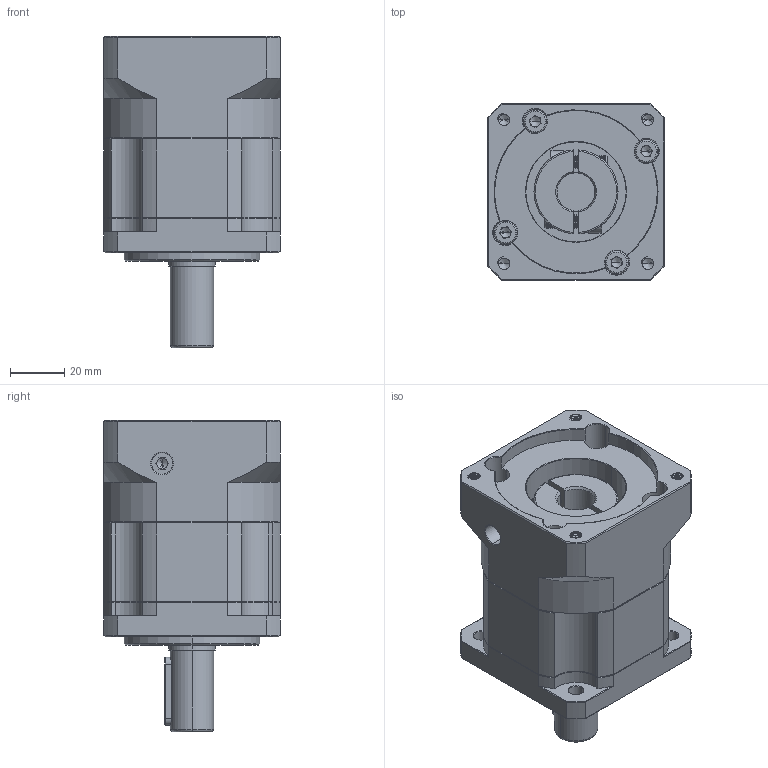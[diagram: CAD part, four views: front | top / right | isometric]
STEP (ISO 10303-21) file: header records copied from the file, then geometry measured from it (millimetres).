
FILE_DESCRIPTION (( 'STEP AP214' ), '1' );
FILE_NAME ('ZB60-D16-L1-14-60-75-M5.STEP', '2022-04-17T07:37:55', ( '' ), ( 'Microsoft' ), 'SwSTEP 2.0', 'SolidWorks 2016', '' );
FILE_SCHEMA (( 'AUTOMOTIVE_DESIGN' ));
Length unit declared in the file: millimetre
Products named in the file (1): ZB60-D16-L1-14-60-75-M5
Bounding box: 65 x 65 x 115 mm (x, y, z)
Volume: 266225.1 mm3; surface area: 54645.2 mm2
Topology: 6 solids, 6 shells, 1894 faces, 5036 edges, 3221 vertices
Faces by surface type: plane 879, cylinder 396, bspline 299, cone 286, torus 34
Entity records: 102153 total; most frequent: CARTESIAN_POINT 36658, ORIENTED_EDGE 10012, DIRECTION 8203, EDGE_CURVE 5006, VERTEX_POINT 3221, LINE 3039, VECTOR 3039, AXIS2_PLACEMENT_3D 2582
